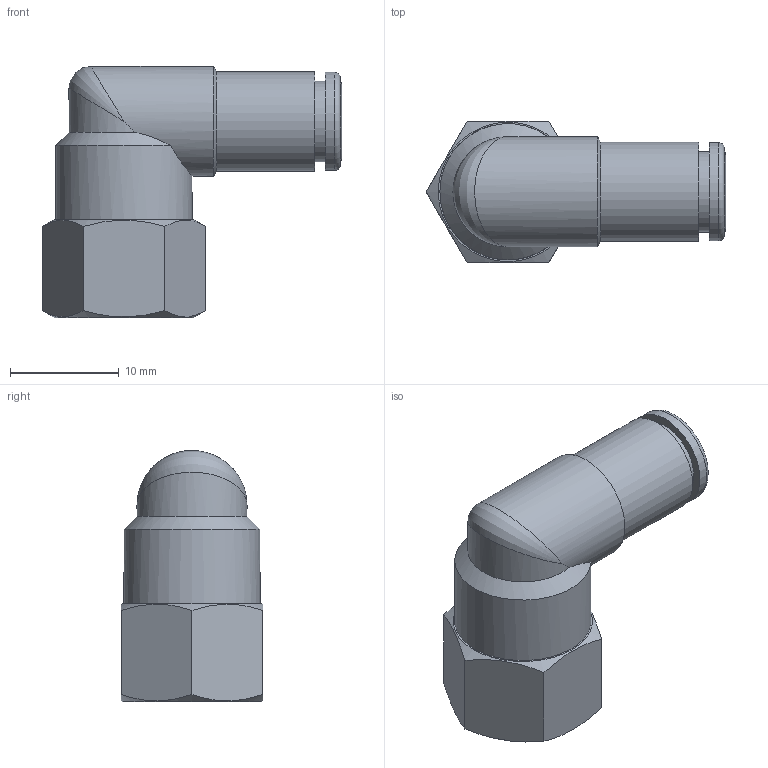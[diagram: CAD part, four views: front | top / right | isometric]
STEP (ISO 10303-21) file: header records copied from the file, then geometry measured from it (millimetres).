
FILE_DESCRIPTION(('Bauteilbeschreibung','HiCAD-Model','HiCAD-STEP-TRANSLATION','Bauteilbeschreibung'),'2;1');
FILE_NAME('B:/ABGLEICH/ZEICHNUNGEN/STEP FÜR INTERNET/STEP/IPSO 022-F/202801_IPSO_022-F_4_1-8.STP','2012-02-09T15:56:58+00:00',('Konstrukteur'),('Konstrukteur Firma GmbH'),' HiCAD neXt 2008, Step 3.1.1401.2J ','HiCAD neXt 2008','confidential');
FILE_SCHEMA(('AUTOMOTIVE_DESIGN { 1 2 10303 214 0 1 1 1 }'));
Length unit declared in the file: millimetre
Products named in the file (6): A02801_IPSO_022_F_4_1_8; A14622_N2_GEW___1_8_1_8; A146220N20GEW0001080108; G 1_8; DR4_1_NEU; R202201_N2
Assembly tree (5 placements, depth 3):
  A02801_IPSO_022_F_4_1_8
    A14622_N2_GEW___1_8_1_8
    A146220N20GEW0001080108
      G 1_8
    DR4_1_NEU
    R202201_N2
Bounding box: 27.51 x 13 x 23.05 mm (x, y, z)
Volume: 2500.9 mm3; surface area: 3520.6 mm2
Topology: 4 solids, 4 shells, 62 faces, 133 edges, 80 vertices
Faces by surface type: cylinder 22, cone 20, plane 18, torus 1, bspline 1
Full cylindrical faces by diameter (mm): 3 x1, 4.1 x2, 5.5 x1, 6 x1, 6.4 x1, 7.3 x1, 7.4 x1, 7.6 x1, 8.566 x2, 9 x3, 9.1 x1, 9.728 x2, 10.1 x3, 12.5 x1
Entity records: 3096 total; most frequent: CARTESIAN_POINT 1481, DIRECTION 256, ORIENTED_EDGE 156, AXIS2_PLACEMENT_3D 125, EDGE_LOOP 115, EDGE_CURVE 78, COLOUR_RGB 76, PRESENTATION_STYLE_ASSIGNMENT 76
